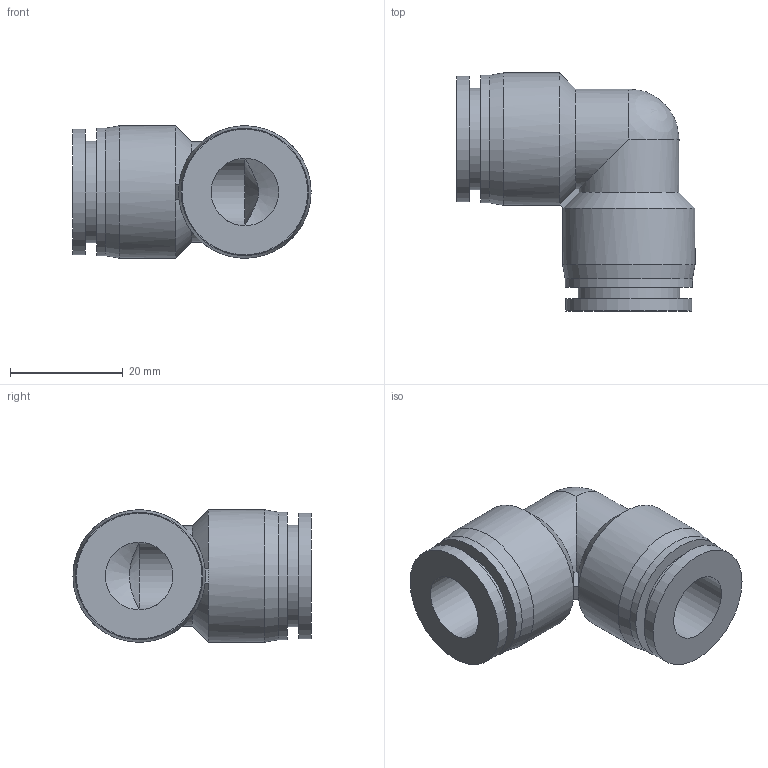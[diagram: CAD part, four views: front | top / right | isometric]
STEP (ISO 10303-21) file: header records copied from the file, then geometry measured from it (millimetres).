
FILE_DESCRIPTION((''),'2;1');
FILE_NAME('S:\UTecnico\ArchivioUT\Speciali Clienti\Speciali KONFIT\Plastica\RP\RP 54\RP540014.stp','2012-05-15T16:33:28',('UT5'),(''),'Autodesk Inventor 2012','Autodesk Inventor 2012','');
FILE_SCHEMA(('AUTOMOTIVE_DESIGN { 1 0 10303 214 1 1 1 1 }'));
Length unit declared in the file: millimetre
Products named in the file (1): RP540014
Bounding box: 42.25 x 42.25 x 23.5 mm (x, y, z)
Volume: 14435.6 mm3; surface area: 7457 mm2
Topology: 1 solids, 1 shells, 28 faces, 63 edges, 40 vertices
Faces by surface type: cylinder 12, plane 9, cone 6, sphere 1
Full cylindrical faces by diameter (mm): 12 x2, 18 x2, 22.3 x2, 22.6 x2, 23.5 x2
Entity records: 741 total; most frequent: CARTESIAN_POINT 132, DIRECTION 126, ORIENTED_EDGE 88, AXIS2_PLACEMENT_3D 58, EDGE_LOOP 46, EDGE_CURVE 44, VERTEX_POINT 34, FACE_OUTER_BOUND 28
